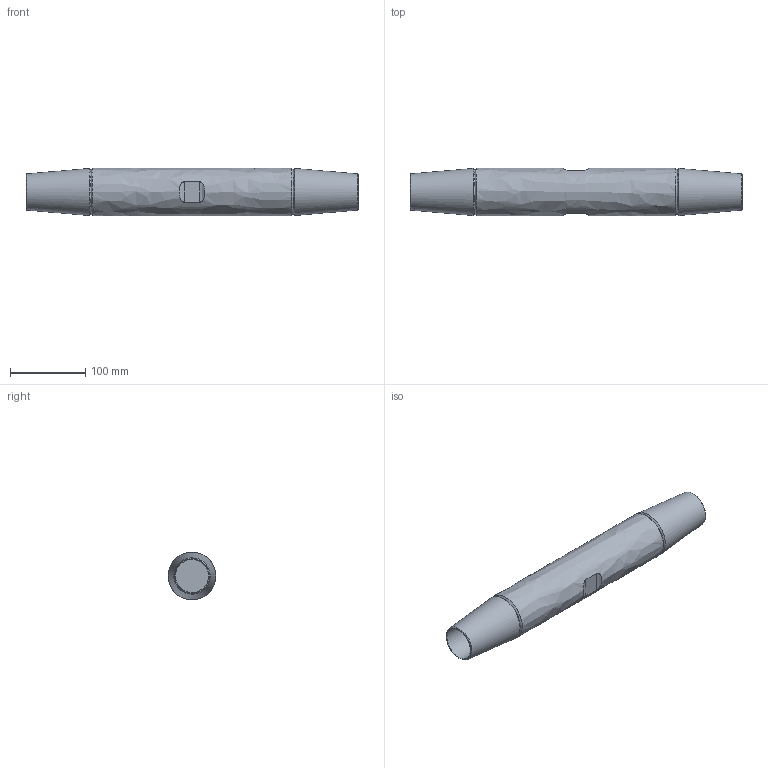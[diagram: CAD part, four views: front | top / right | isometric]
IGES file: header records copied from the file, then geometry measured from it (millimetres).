
Global section: file name: 520-042-MUF; native system: Autodesk Inventor 2016; preprocessor: unknown; author: Administrator; date: 20200630.131709; units: centimetre
Bounding box: 441 x 63 x 63 mm (x, y, z)
Volume: 1054675.6 mm3; surface area: 105328.1 mm2
Topology: 1 solids, 1 shells, 21 faces, 52 edges, 36 vertices
Faces by surface type: bspline 21
